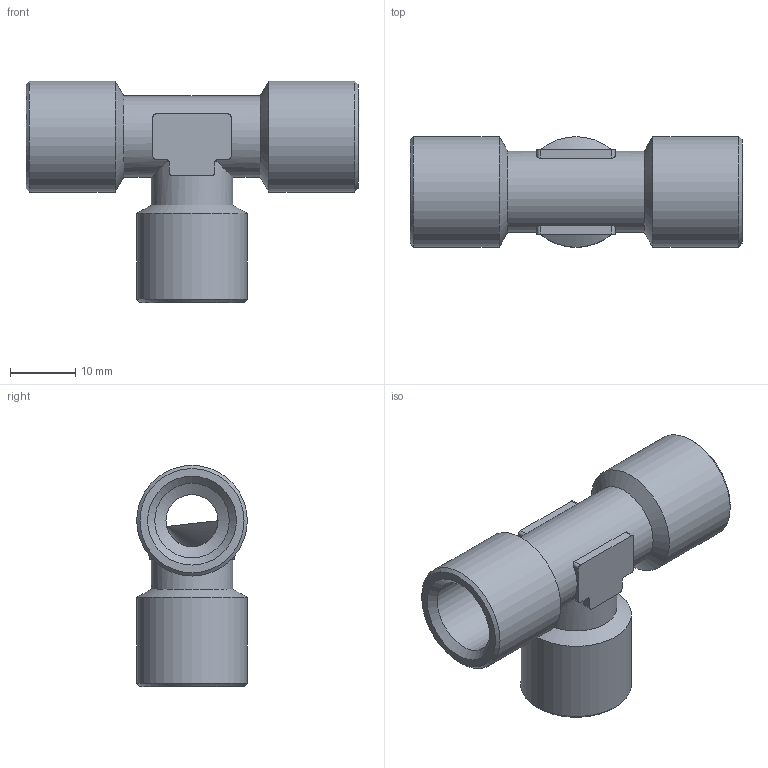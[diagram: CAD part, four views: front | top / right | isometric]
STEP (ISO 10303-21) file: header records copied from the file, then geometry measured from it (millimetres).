
FILE_DESCRIPTION(/* description */ (''),/* implementation_level */ '2;1');
FILE_NAME(/* name */ '40004_111_G14_01.02.16',/* time_stamp */ '2016-02-01T11:27:44+01:00',/* author */ (''),/* organization */ (''),/* preprocessor_version */ 'ST-DEVELOPER v14',/* originating_system */ 'HiCAD 2013 1802.4 Build 509',/* authorisation */ '');
FILE_SCHEMA (('AUTOMOTIVE_DESIGN { 1 0 10303 214 1 1 1 1 }'));
Length unit declared in the file: millimetre
Products named in the file (2): Root; 40004
Assembly tree (1 placements, depth 2):
  Root
    40004
Bounding box: 51 x 17 x 34 mm (x, y, z)
Volume: 7752.9 mm3; surface area: 6067.3 mm2
Topology: 1 solids, 1 shells, 59 faces, 157 edges, 99 vertices
Faces by surface type: cylinder 26, plane 21, cone 12
Full cylindrical faces by diameter (mm): 8 x2, 11.445 x3, 12.5 x2, 17 x3
Entity records: 5659 total; most frequent: CARTESIAN_POINT 3018, DIRECTION 280, PRESENTATION_STYLE_ASSIGNMENT 257, COLOUR_RGB 257, DRAUGHTING_PRE_DEFINED_CURVE_FONT 256, CURVE_STYLE 256, OVER_RIDING_STYLED_ITEM 256, ORIENTED_EDGE 256
